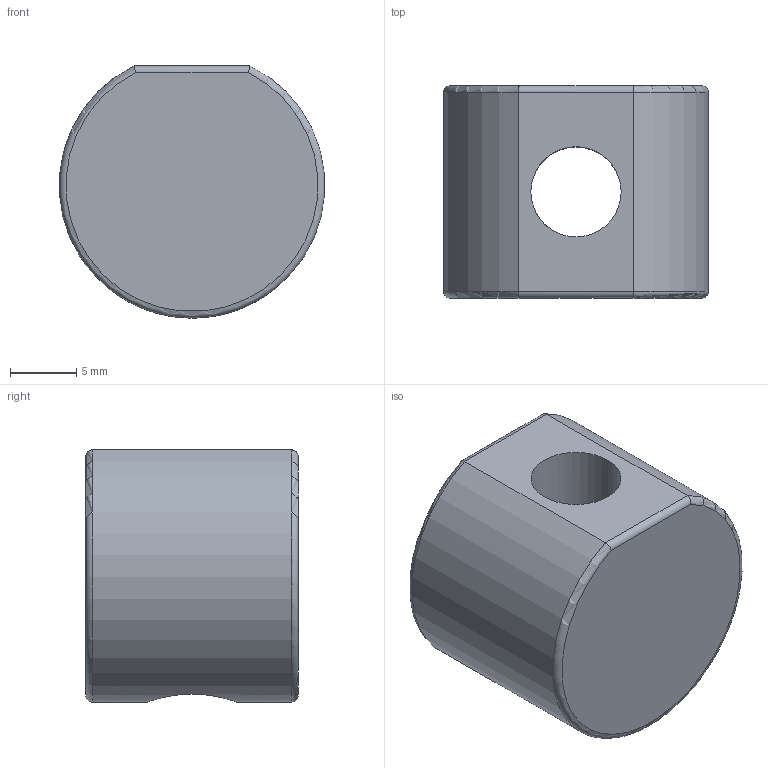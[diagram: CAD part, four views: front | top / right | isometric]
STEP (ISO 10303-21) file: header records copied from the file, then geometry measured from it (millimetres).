
FILE_DESCRIPTION (( 'STEP AP203' ), '1' );
FILE_NAME ('WSH08M8.STEP', '2024-02-19T05:44:30', ( '' ), ( '' ), 'SwSTEP 2.0', 'SolidWorks 2022', '' );
FILE_SCHEMA (( 'CONFIG_CONTROL_DESIGN' ));
Length unit declared in the file: millimetre
Products named in the file (1): WSH08M8
Bounding box: 19.97 x 16 x 19 mm (x, y, z)
Volume: 4241.3 mm3; surface area: 1916.4 mm2
Topology: 1 solids, 1 shells, 11 faces, 26 edges, 16 vertices
Faces by surface type: cylinder 6, plane 3, torus 2
Entity records: 465 total; most frequent: CARTESIAN_POINT 138, ORIENTED_EDGE 52, DIRECTION 50, EDGE_CURVE 26, AXIS2_PLACEMENT_3D 20, VERTEX_POINT 16, EDGE_LOOP 12, ADVANCED_FACE 11
